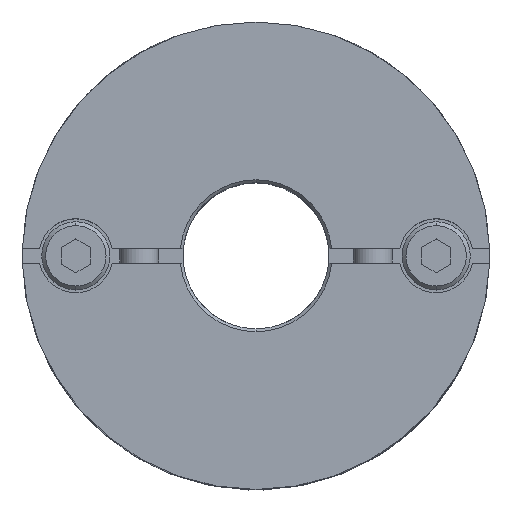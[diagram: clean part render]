
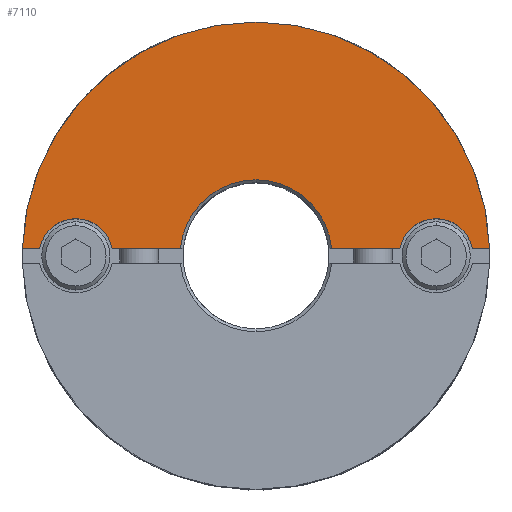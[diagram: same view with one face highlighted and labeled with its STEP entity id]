
A CAD part, top view. The second image highlights one B-rep face of the part: STEP entity #7110.
In plain terms, the highlighted planar face has unit normal (0, 0, 1).
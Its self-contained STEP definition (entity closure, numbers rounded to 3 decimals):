
#553=CARTESIAN_POINT('',(0.,7.8,19.3));
#554=VERTEX_POINT('',#553);
#563=CARTESIAN_POINT('',(-7.764,0.75,19.3));
#564=VERTEX_POINT('',#563);
#565=CARTESIAN_POINT('',(0.,0.,19.3));
#566=DIRECTION('',(0.0,0.0,1.0));
#567=DIRECTION('',(0.0,-1.0,0.0));
#568=AXIS2_PLACEMENT_3D('',#565,#566,#567);
#569=CIRCLE('',#568,7.8);
#570=EDGE_CURVE('',#554,#564,#569,.T.);
#742=CARTESIAN_POINT('',(0.,24.,19.3));
#743=VERTEX_POINT('',#742);
#827=CARTESIAN_POINT('',(-23.988,0.75,19.3));
#828=VERTEX_POINT('',#827);
#835=CARTESIAN_POINT('',(0.,0.,19.3));
#836=DIRECTION('',(0.0,0.0,-1.0));
#837=DIRECTION('',(0.0,1.0,0.0));
#838=AXIS2_PLACEMENT_3D('',#835,#836,#837);
#839=CIRCLE('',#838,24.0);
#840=EDGE_CURVE('',#828,#743,#839,.T.);
#1041=CARTESIAN_POINT('',(-18.5,3.8,19.3));
#1042=VERTEX_POINT('',#1041);
#1051=CARTESIAN_POINT('',(-22.225,0.75,19.3));
#1052=VERTEX_POINT('',#1051);
#1053=CARTESIAN_POINT('',(-18.5,0.,19.3));
#1054=DIRECTION('',(0.0,0.0,-1.0));
#1055=DIRECTION('',(0.0,1.0,0.0));
#1056=AXIS2_PLACEMENT_3D('',#1053,#1054,#1055);
#1057=CIRCLE('',#1056,3.8);
#1058=EDGE_CURVE('',#1052,#1042,#1057,.T.);
#1125=CARTESIAN_POINT('',(18.5,3.8,19.3));
#1126=VERTEX_POINT('',#1125);
#1135=CARTESIAN_POINT('',(14.775,0.75,19.3));
#1136=VERTEX_POINT('',#1135);
#1137=CARTESIAN_POINT('',(18.5,0.,19.3));
#1138=DIRECTION('',(0.0,0.0,-1.0));
#1139=DIRECTION('',(0.0,1.0,0.0));
#1140=AXIS2_PLACEMENT_3D('',#1137,#1138,#1139);
#1141=CIRCLE('',#1140,3.8);
#1142=EDGE_CURVE('',#1136,#1126,#1141,.T.);
#6786=CARTESIAN_POINT('',(22.225,0.75,19.3));
#6787=VERTEX_POINT('',#6786);
#6794=CARTESIAN_POINT('',(18.5,0.,19.3));
#6795=DIRECTION('',(0.0,0.0,-1.0));
#6796=DIRECTION('',(0.0,1.0,0.0));
#6797=AXIS2_PLACEMENT_3D('',#6794,#6795,#6796);
#6798=CIRCLE('',#6797,3.8);
#6799=EDGE_CURVE('',#1126,#6787,#6798,.T.);
#6852=CARTESIAN_POINT('',(-14.775,0.75,19.3));
#6853=VERTEX_POINT('',#6852);
#6860=CARTESIAN_POINT('',(-18.5,0.,19.3));
#6861=DIRECTION('',(0.0,0.0,-1.0));
#6862=DIRECTION('',(0.0,1.0,0.0));
#6863=AXIS2_PLACEMENT_3D('',#6860,#6861,#6862);
#6864=CIRCLE('',#6863,3.8);
#6865=EDGE_CURVE('',#1042,#6853,#6864,.T.);
#6884=CARTESIAN_POINT('',(23.988,0.75,19.3));
#6885=VERTEX_POINT('',#6884);
#6892=CARTESIAN_POINT('',(22.225,0.75,19.3));
#6893=DIRECTION('',(1.0,0.0,0.0));
#6894=VECTOR('',#6893,1.763);
#6895=LINE('',#6892,#6894);
#6896=EDGE_CURVE('',#6787,#6885,#6895,.T.);
#6907=CARTESIAN_POINT('',(7.764,0.75,19.3));
#6908=VERTEX_POINT('',#6907);
#6909=CARTESIAN_POINT('',(7.764,0.75,19.3));
#6910=DIRECTION('',(1.0,0.0,0.0));
#6911=VECTOR('',#6910,7.011);
#6912=LINE('',#6909,#6911);
#6913=EDGE_CURVE('',#6908,#1136,#6912,.T.);
#7069=CARTESIAN_POINT('',(0.,2.182,19.3));
#7070=DIRECTION('',(0.0,0.0,1.0));
#7071=DIRECTION('',(0.0,1.0,0.0));
#7072=AXIS2_PLACEMENT_3D('',#7069,#7070,#7071);
#7073=PLANE('',#7072);
#7074=ORIENTED_EDGE('',*,*,#1142,.T.);
#7075=ORIENTED_EDGE('',*,*,#6799,.T.);
#7076=ORIENTED_EDGE('',*,*,#6896,.T.);
#7077=CARTESIAN_POINT('',(0.,0.,19.3));
#7078=DIRECTION('',(0.0,0.0,-1.0));
#7079=DIRECTION('',(0.0,1.0,0.0));
#7080=AXIS2_PLACEMENT_3D('',#7077,#7078,#7079);
#7081=CIRCLE('',#7080,24.0);
#7082=EDGE_CURVE('',#743,#6885,#7081,.T.);
#7083=ORIENTED_EDGE('',*,*,#7082,.F.);
#7084=ORIENTED_EDGE('',*,*,#840,.F.);
#7085=CARTESIAN_POINT('',(-23.988,0.75,19.3));
#7086=DIRECTION('',(1.0,0.0,0.0));
#7087=VECTOR('',#7086,1.763);
#7088=LINE('',#7085,#7087);
#7089=EDGE_CURVE('',#828,#1052,#7088,.T.);
#7090=ORIENTED_EDGE('',*,*,#7089,.T.);
#7091=ORIENTED_EDGE('',*,*,#1058,.T.);
#7092=ORIENTED_EDGE('',*,*,#6865,.T.);
#7093=CARTESIAN_POINT('',(-14.775,0.75,19.3));
#7094=DIRECTION('',(1.0,0.0,0.0));
#7095=VECTOR('',#7094,7.011);
#7096=LINE('',#7093,#7095);
#7097=EDGE_CURVE('',#6853,#564,#7096,.T.);
#7098=ORIENTED_EDGE('',*,*,#7097,.T.);
#7099=ORIENTED_EDGE('',*,*,#570,.F.);
#7100=CARTESIAN_POINT('',(0.,0.,19.3));
#7101=DIRECTION('',(0.0,0.0,1.0));
#7102=DIRECTION('',(0.0,-1.0,0.0));
#7103=AXIS2_PLACEMENT_3D('',#7100,#7101,#7102);
#7104=CIRCLE('',#7103,7.8);
#7105=EDGE_CURVE('',#6908,#554,#7104,.T.);
#7106=ORIENTED_EDGE('',*,*,#7105,.F.);
#7107=ORIENTED_EDGE('',*,*,#6913,.T.);
#7108=EDGE_LOOP('',(#7074,#7075,#7076,#7083,#7084,#7090,#7091,#7092,#7098,#7099,#7106,#7107));
#7109=FACE_OUTER_BOUND('',#7108,.T.);
#7110=ADVANCED_FACE('',(#7109),#7073,.T.);
